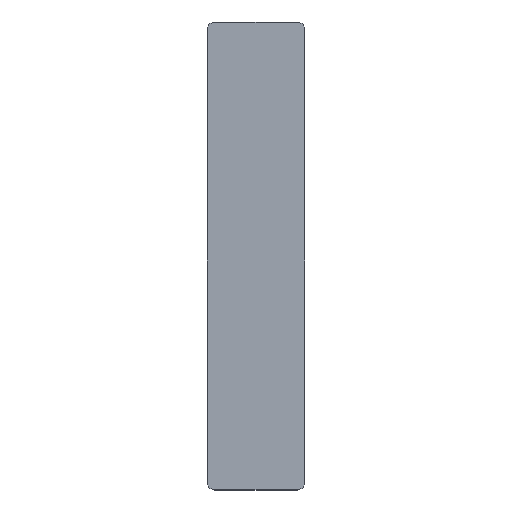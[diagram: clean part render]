
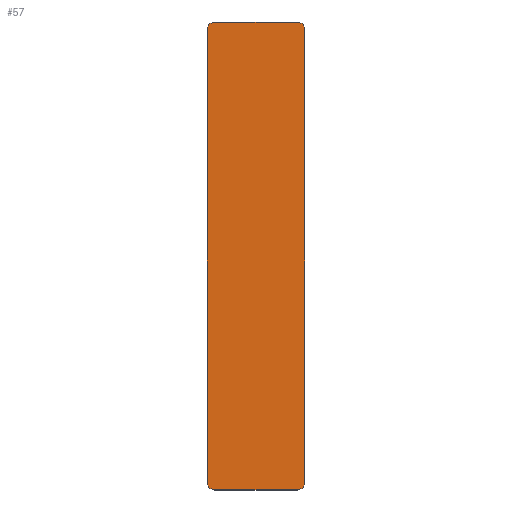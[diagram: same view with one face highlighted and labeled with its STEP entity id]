
A CAD part, top view. The second image highlights one B-rep face of the part: STEP entity #57.
In plain terms, the highlighted planar face has unit normal (0, 0, 1).
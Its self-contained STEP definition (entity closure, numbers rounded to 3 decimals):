
#21 = EDGE_CURVE('',#22,#24,#26,.T.);
#22 = VERTEX_POINT('',#23);
#23 = CARTESIAN_POINT('',(-106.,-161.,58.4));
#24 = VERTEX_POINT('',#25);
#25 = CARTESIAN_POINT('',(-106.,15.,58.4));
#26 = LINE('',#27,#28);
#27 = CARTESIAN_POINT('',(-106.,-164.,58.4));
#28 = VECTOR('',#29,1.);
#29 = DIRECTION('',(0.,1.,0.));
#57 = ADVANCED_FACE('',(#58),#119,.T.);
#58 = FACE_BOUND('',#59,.T.);
#59 = EDGE_LOOP('',(#60,#61,#70,#78,#87,#95,#104,#112));
#60 = ORIENTED_EDGE('',*,*,#21,.F.);
#61 = ORIENTED_EDGE('',*,*,#62,.T.);
#62 = EDGE_CURVE('',#22,#63,#65,.T.);
#63 = VERTEX_POINT('',#64);
#64 = CARTESIAN_POINT('',(-103.,-164.,58.4));
#65 = CIRCLE('',#66,3.);
#66 = AXIS2_PLACEMENT_3D('',#67,#68,#69);
#67 = CARTESIAN_POINT('',(-103.,-161.,58.4));
#68 = DIRECTION('',(-0.,0.,1.));
#69 = DIRECTION('',(0.,-1.,0.));
#70 = ORIENTED_EDGE('',*,*,#71,.T.);
#71 = EDGE_CURVE('',#63,#72,#74,.T.);
#72 = VERTEX_POINT('',#73);
#73 = CARTESIAN_POINT('',(-71.,-164.,58.4));
#74 = LINE('',#75,#76);
#75 = CARTESIAN_POINT('',(-106.,-164.,58.4));
#76 = VECTOR('',#77,1.);
#77 = DIRECTION('',(1.,0.,0.));
#78 = ORIENTED_EDGE('',*,*,#79,.F.);
#79 = EDGE_CURVE('',#80,#72,#82,.T.);
#80 = VERTEX_POINT('',#81);
#81 = CARTESIAN_POINT('',(-68.,-161.,58.4));
#82 = CIRCLE('',#83,3.);
#83 = AXIS2_PLACEMENT_3D('',#84,#85,#86);
#84 = CARTESIAN_POINT('',(-71.,-161.,58.4));
#85 = DIRECTION('',(-0.,-0.,-1.));
#86 = DIRECTION('',(0.,-1.,0.));
#87 = ORIENTED_EDGE('',*,*,#88,.T.);
#88 = EDGE_CURVE('',#80,#89,#91,.T.);
#89 = VERTEX_POINT('',#90);
#90 = CARTESIAN_POINT('',(-68.,15.,58.4));
#91 = LINE('',#92,#93);
#92 = CARTESIAN_POINT('',(-68.,-164.,58.4));
#93 = VECTOR('',#94,1.);
#94 = DIRECTION('',(0.,1.,0.));
#95 = ORIENTED_EDGE('',*,*,#96,.T.);
#96 = EDGE_CURVE('',#89,#97,#99,.T.);
#97 = VERTEX_POINT('',#98);
#98 = CARTESIAN_POINT('',(-71.,18.,58.4));
#99 = CIRCLE('',#100,3.);
#100 = AXIS2_PLACEMENT_3D('',#101,#102,#103);
#101 = CARTESIAN_POINT('',(-71.,15.,58.4));
#102 = DIRECTION('',(-0.,0.,1.));
#103 = DIRECTION('',(0.,-1.,0.));
#104 = ORIENTED_EDGE('',*,*,#105,.F.);
#105 = EDGE_CURVE('',#106,#97,#108,.T.);
#106 = VERTEX_POINT('',#107);
#107 = CARTESIAN_POINT('',(-103.,18.,58.4));
#108 = LINE('',#109,#110);
#109 = CARTESIAN_POINT('',(-106.,18.,58.4));
#110 = VECTOR('',#111,1.);
#111 = DIRECTION('',(1.,0.,0.));
#112 = ORIENTED_EDGE('',*,*,#113,.F.);
#113 = EDGE_CURVE('',#24,#106,#114,.T.);
#114 = CIRCLE('',#115,3.);
#115 = AXIS2_PLACEMENT_3D('',#116,#117,#118);
#116 = CARTESIAN_POINT('',(-103.,15.,58.4));
#117 = DIRECTION('',(-0.,-0.,-1.));
#118 = DIRECTION('',(0.,-1.,0.));
#119 = PLANE('',#120);
#120 = AXIS2_PLACEMENT_3D('',#121,#122,#123);
#121 = CARTESIAN_POINT('',(-106.,-164.,58.4));
#122 = DIRECTION('',(0.,0.,1.));
#123 = DIRECTION('',(1.,0.,0.));
